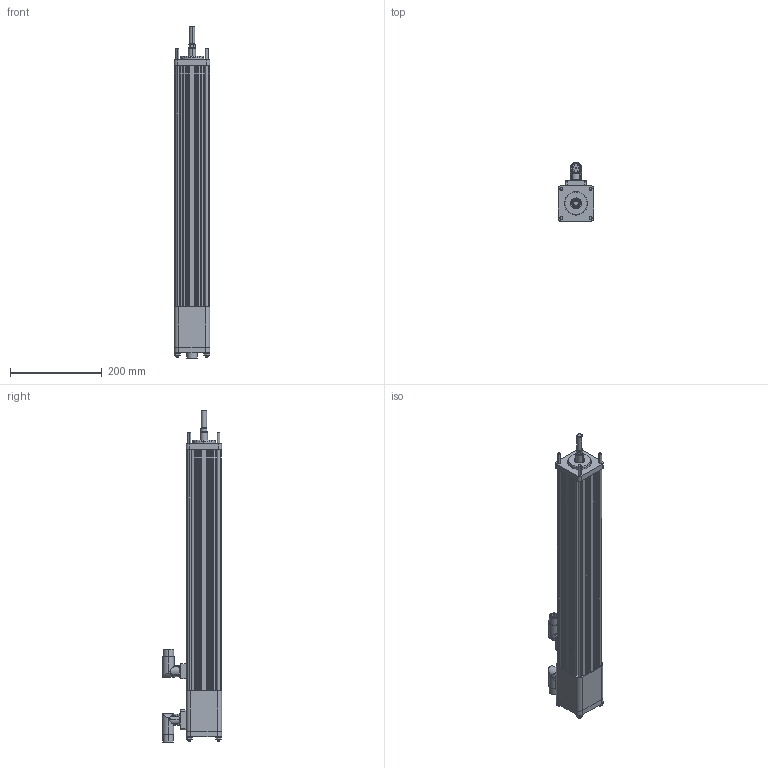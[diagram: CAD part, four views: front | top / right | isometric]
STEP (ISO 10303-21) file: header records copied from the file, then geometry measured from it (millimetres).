
FILE_DESCRIPTION (( 'STEP AP203' ), '1' );
FILE_NAME ('GSM30-18 inch Extended Tie Rod, Euro Conn, A Rod, Absolute.step', '2008-06-14T07:12:49', ( 'SaharaKiran' ), ( 'I2T2' ), 'SwSTEP 2.0', 'SolidWorks 2008', '' );
FILE_SCHEMA (( 'CONFIG_CONTROL_DESIGN' ));
Length unit declared in the file: inch
Products named in the file (15): 25610; 20494; 23017; 19819; GSM30-18 inch Extended Tie Rod, Euro Conn, A Rod, Absolute; case_18"; MAIN ROD GSX30_A MAIN ROD -18"; 10513; End Cap Ab_Extend Tie Rod, Euro; End Cap,Ab_32429; 32430; 12367; Tie Rod_12882-18"; 11247; 11248
Assembly tree (31 placements, depth 3):
  GSM30-18 inch Extended Tie Rod, Euro Conn, A Rod, Absolute
    12367  x4
    11248  x4
    10513  x2
    Tie Rod_12882-18"  x4
    11247  x4
    MAIN ROD GSX30_A MAIN ROD -18"
    23017
    25610
    End Cap Ab_Extend Tie Rod, Euro
      End Cap,Ab_32429
      20494
      32430
      12367  x4
    19819
    case_18"
Bounding box: 77.37 x 129.07 x 722.54 mm (x, y, z)
Volume: 1325795.8 mm3; surface area: 546650 mm2
Topology: 30 solids, 30 shells, 960 faces, 2334 edges, 1479 vertices
Faces by surface type: cylinder 472, plane 306, cone 152, torus 30
Entity records: 24776 total; most frequent: CARTESIAN_POINT 4512, DIRECTION 4151, ORIENTED_EDGE 3584, EDGE_CURVE 1792, AXIS2_PLACEMENT_3D 1653, VERTEX_POINT 1163, CIRCLE 894, EDGE_LOOP 865
